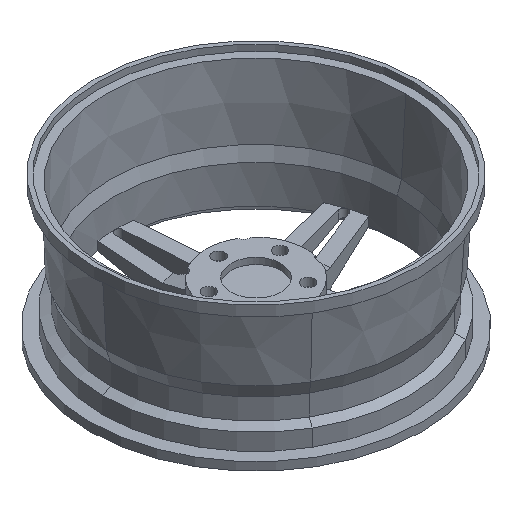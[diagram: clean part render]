
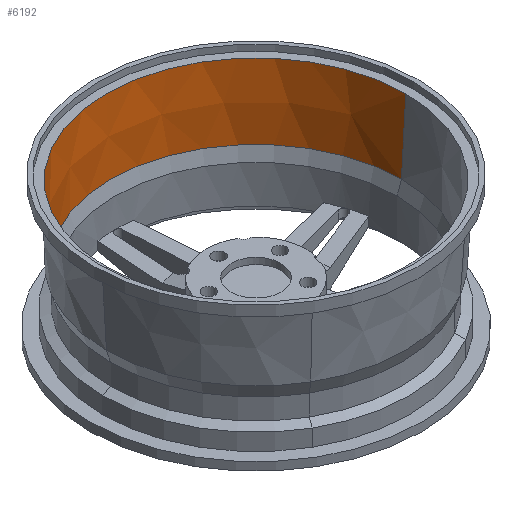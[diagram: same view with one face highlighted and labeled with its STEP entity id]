
A CAD part, isometric view. The second image highlights one B-rep face of the part: STEP entity #6192.
In plain terms, the highlighted conical face has half-angle 3.5 degrees and reference radius 175.094 mm.
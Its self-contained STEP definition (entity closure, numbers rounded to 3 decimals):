
#5352 = EDGE_CURVE('',#5353,#5355,#5357,.T.);
#5353 = VERTEX_POINT('',#5354);
#5354 = CARTESIAN_POINT('',(175.094,0.,-94.038));
#5355 = VERTEX_POINT('',#5356);
#5356 = CARTESIAN_POINT('',(-175.094,0.,-94.038));
#5357 = SURFACE_CURVE('',#5358,(#5363,#5375),.PCURVE_S1.);
#5358 = CIRCLE('',#5359,175.094);
#5359 = AXIS2_PLACEMENT_3D('',#5360,#5361,#5362);
#5360 = CARTESIAN_POINT('',(0.,0.,-94.038));
#5361 = DIRECTION('',(0.,0.,1.));
#5362 = DIRECTION('',(1.,0.,0.));
#5363 = PCURVE('',#5364,#5369);
#5364 = CONICAL_SURFACE('',#5365,170.031,0.323);
#5365 = AXIS2_PLACEMENT_3D('',#5366,#5367,#5368);
#5366 = CARTESIAN_POINT('',(0.,0.,-109.169));
#5367 = DIRECTION('',(0.,0.,1.));
#5368 = DIRECTION('',(1.,0.,0.));
#5369 = DEFINITIONAL_REPRESENTATION('',(#5370),#5374);
#5370 = LINE('',#5371,#5372);
#5371 = CARTESIAN_POINT('',(0.,15.131));
#5372 = VECTOR('',#5373,1.);
#5373 = DIRECTION('',(1.,0.));
#5374 = ( GEOMETRIC_REPRESENTATION_CONTEXT(2) 
PARAMETRIC_REPRESENTATION_CONTEXT() REPRESENTATION_CONTEXT('2D SPACE',''
  ) );
#5375 = PCURVE('',#5376,#5381);
#5376 = CONICAL_SURFACE('',#5377,175.094,0.061);
#5377 = AXIS2_PLACEMENT_3D('',#5378,#5379,#5380);
#5378 = CARTESIAN_POINT('',(0.,0.,-94.038));
#5379 = DIRECTION('',(0.,0.,1.));
#5380 = DIRECTION('',(1.,0.,0.));
#5381 = DEFINITIONAL_REPRESENTATION('',(#5382),#5386);
#5382 = LINE('',#5383,#5384);
#5383 = CARTESIAN_POINT('',(0.,0.));
#5384 = VECTOR('',#5385,1.);
#5385 = DIRECTION('',(1.,0.));
#5386 = ( GEOMETRIC_REPRESENTATION_CONTEXT(2) 
PARAMETRIC_REPRESENTATION_CONTEXT() REPRESENTATION_CONTEXT('2D SPACE',''
  ) );
#6192 = ADVANCED_FACE('',(#6193),#5376,.F.);
#6193 = FACE_BOUND('',#6194,.F.);
#6194 = EDGE_LOOP('',(#6195,#6226,#6252,#6253));
#6195 = ORIENTED_EDGE('',*,*,#6196,.F.);
#6196 = EDGE_CURVE('',#6197,#6199,#6201,.T.);
#6197 = VERTEX_POINT('',#6198);
#6198 = CARTESIAN_POINT('',(180.386,0.,-7.5));
#6199 = VERTEX_POINT('',#6200);
#6200 = CARTESIAN_POINT('',(-180.386,0.,-7.5));
#6201 = SURFACE_CURVE('',#6202,(#6207,#6214),.PCURVE_S1.);
#6202 = CIRCLE('',#6203,180.386);
#6203 = AXIS2_PLACEMENT_3D('',#6204,#6205,#6206);
#6204 = CARTESIAN_POINT('',(0.,0.,-7.5));
#6205 = DIRECTION('',(0.,0.,1.));
#6206 = DIRECTION('',(1.,0.,0.));
#6207 = PCURVE('',#5376,#6208);
#6208 = DEFINITIONAL_REPRESENTATION('',(#6209),#6213);
#6209 = LINE('',#6210,#6211);
#6210 = CARTESIAN_POINT('',(0.,86.538));
#6211 = VECTOR('',#6212,1.);
#6212 = DIRECTION('',(1.,0.));
#6213 = ( GEOMETRIC_REPRESENTATION_CONTEXT(2) 
PARAMETRIC_REPRESENTATION_CONTEXT() REPRESENTATION_CONTEXT('2D SPACE',''
  ) );
#6214 = PCURVE('',#6215,#6220);
#6215 = PLANE('',#6216);
#6216 = AXIS2_PLACEMENT_3D('',#6217,#6218,#6219);
#6217 = CARTESIAN_POINT('',(180.386,0.,-7.5));
#6218 = DIRECTION('',(0.,0.,1.));
#6219 = DIRECTION('',(1.,0.,0.));
#6220 = DEFINITIONAL_REPRESENTATION('',(#6221),#6225);
#6221 = CIRCLE('',#6222,180.386);
#6222 = AXIS2_PLACEMENT_2D('',#6223,#6224);
#6223 = CARTESIAN_POINT('',(-180.386,0.));
#6224 = DIRECTION('',(1.,0.));
#6225 = ( GEOMETRIC_REPRESENTATION_CONTEXT(2) 
PARAMETRIC_REPRESENTATION_CONTEXT() REPRESENTATION_CONTEXT('2D SPACE',''
  ) );
#6226 = ORIENTED_EDGE('',*,*,#6227,.F.);
#6227 = EDGE_CURVE('',#5353,#6197,#6228,.T.);
#6228 = SURFACE_CURVE('',#6229,(#6233,#6240),.PCURVE_S1.);
#6229 = LINE('',#6230,#6231);
#6230 = CARTESIAN_POINT('',(175.094,0.,-94.038));
#6231 = VECTOR('',#6232,1.);
#6232 = DIRECTION('',(0.061,0.,0.998));
#6233 = PCURVE('',#5376,#6234);
#6234 = DEFINITIONAL_REPRESENTATION('',(#6235),#6239);
#6235 = LINE('',#6236,#6237);
#6236 = CARTESIAN_POINT('',(0.,0.));
#6237 = VECTOR('',#6238,1.);
#6238 = DIRECTION('',(0.,1.));
#6239 = ( GEOMETRIC_REPRESENTATION_CONTEXT(2) 
PARAMETRIC_REPRESENTATION_CONTEXT() REPRESENTATION_CONTEXT('2D SPACE',''
  ) );
#6240 = PCURVE('',#6241,#6246);
#6241 = CONICAL_SURFACE('',#6242,175.094,0.061);
#6242 = AXIS2_PLACEMENT_3D('',#6243,#6244,#6245);
#6243 = CARTESIAN_POINT('',(0.,0.,-94.038));
#6244 = DIRECTION('',(0.,0.,1.));
#6245 = DIRECTION('',(1.,0.,0.));
#6246 = DEFINITIONAL_REPRESENTATION('',(#6247),#6251);
#6247 = LINE('',#6248,#6249);
#6248 = CARTESIAN_POINT('',(6.283,0.));
#6249 = VECTOR('',#6250,1.);
#6250 = DIRECTION('',(0.,1.));
#6251 = ( GEOMETRIC_REPRESENTATION_CONTEXT(2) 
PARAMETRIC_REPRESENTATION_CONTEXT() REPRESENTATION_CONTEXT('2D SPACE',''
  ) );
#6252 = ORIENTED_EDGE('',*,*,#5352,.T.);
#6253 = ORIENTED_EDGE('',*,*,#6254,.T.);
#6254 = EDGE_CURVE('',#5355,#6199,#6255,.T.);
#6255 = SURFACE_CURVE('',#6256,(#6260,#6267),.PCURVE_S1.);
#6256 = LINE('',#6257,#6258);
#6257 = CARTESIAN_POINT('',(-175.094,0.,-94.038));
#6258 = VECTOR('',#6259,1.);
#6259 = DIRECTION('',(-0.061,0.,0.998));
#6260 = PCURVE('',#5376,#6261);
#6261 = DEFINITIONAL_REPRESENTATION('',(#6262),#6266);
#6262 = LINE('',#6263,#6264);
#6263 = CARTESIAN_POINT('',(3.142,-0.));
#6264 = VECTOR('',#6265,1.);
#6265 = DIRECTION('',(0.,1.));
#6266 = ( GEOMETRIC_REPRESENTATION_CONTEXT(2) 
PARAMETRIC_REPRESENTATION_CONTEXT() REPRESENTATION_CONTEXT('2D SPACE',''
  ) );
#6267 = PCURVE('',#6241,#6268);
#6268 = DEFINITIONAL_REPRESENTATION('',(#6269),#6273);
#6269 = LINE('',#6270,#6271);
#6270 = CARTESIAN_POINT('',(3.142,-0.));
#6271 = VECTOR('',#6272,1.);
#6272 = DIRECTION('',(0.,1.));
#6273 = ( GEOMETRIC_REPRESENTATION_CONTEXT(2) 
PARAMETRIC_REPRESENTATION_CONTEXT() REPRESENTATION_CONTEXT('2D SPACE',''
  ) );
